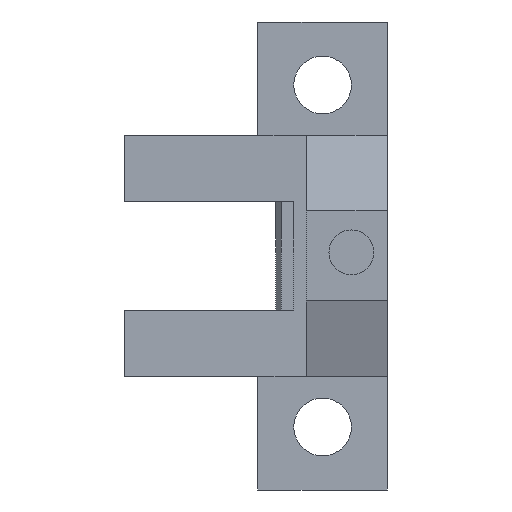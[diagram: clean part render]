
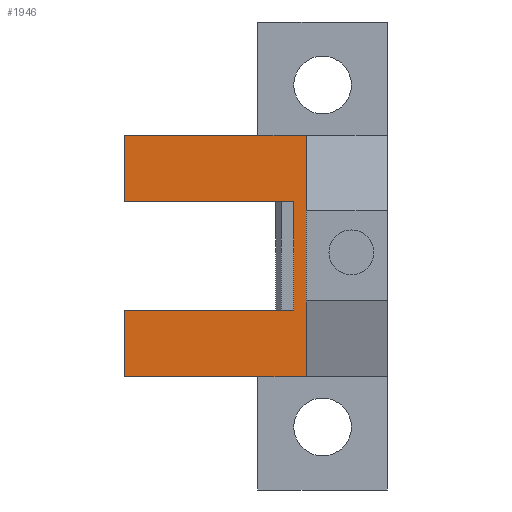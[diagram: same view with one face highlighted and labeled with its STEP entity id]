
A CAD part, left-side view. The second image highlights one B-rep face of the part: STEP entity #1946.
In plain terms, the highlighted planar face has unit normal (-1, 0, 0).
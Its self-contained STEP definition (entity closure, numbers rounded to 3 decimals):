
#4 = EDGE_CURVE ( 'NONE', #1357, #1883, #20, .T. ) ;
#20 = LINE ( 'NONE', #2576, #2518 ) ;
#34 = ORIENTED_EDGE ( 'NONE', *, *, #788, .F. ) ;
#61 = DIRECTION ( 'NONE',  ( 0., -1., 0. ) ) ;
#79 = ORIENTED_EDGE ( 'NONE', *, *, #4, .F. ) ;
#98 = CARTESIAN_POINT ( 'NONE',  ( -3., -7.4, 0. ) ) ;
#134 = CARTESIAN_POINT ( 'NONE',  ( -3., 2., 6. ) ) ;
#235 = AXIS2_PLACEMENT_3D ( 'NONE', #278, #2843, #2542 ) ;
#278 = CARTESIAN_POINT ( 'NONE',  ( -3., 2., -3.7 ) ) ;
#351 = CARTESIAN_POINT ( 'NONE',  ( -3., -12.6, 9.7 ) ) ;
#383 = LINE ( 'NONE', #98, #1021 ) ;
#386 = EDGE_CURVE ( 'NONE', #1766, #1917, #640, .T. ) ;
#472 = ORIENTED_EDGE ( 'NONE', *, *, #2100, .T. ) ;
#511 = CARTESIAN_POINT ( 'NONE',  ( -3., 2., -3.7 ) ) ;
#537 = VECTOR ( 'NONE', #848, 1000. ) ;
#571 = PLANE ( 'NONE',  #235 ) ;
#602 = ORIENTED_EDGE ( 'NONE', *, *, #908, .F. ) ;
#628 = EDGE_CURVE ( 'NONE', #1599, #2757, #383, .T. ) ;
#640 = LINE ( 'NONE', #351, #1936 ) ;
#741 = ORIENTED_EDGE ( 'NONE', *, *, #386, .F. ) ;
#745 = EDGE_CURVE ( 'NONE', #1859, #1357, #2309, .T. ) ;
#788 = EDGE_CURVE ( 'NONE', #1883, #1811, #1944, .T. ) ;
#848 = DIRECTION ( 'NONE',  ( 0., 1., 0. ) ) ;
#903 = VECTOR ( 'NONE', #968, 1000. ) ;
#908 = EDGE_CURVE ( 'NONE', #1917, #1970, #2409, .T. ) ;
#919 = ORIENTED_EDGE ( 'NONE', *, *, #1049, .F. ) ;
#963 = DIRECTION ( 'NONE',  ( 0., 0., 1. ) ) ;
#968 = DIRECTION ( 'NONE',  ( 0., 1., 0. ) ) ;
#976 = VECTOR ( 'NONE', #1368, 1000. ) ;
#994 = CARTESIAN_POINT ( 'NONE',  ( -3., -5.4, 9.7 ) ) ;
#1021 = VECTOR ( 'NONE', #2654, 1000. ) ;
#1049 = EDGE_CURVE ( 'NONE', #2757, #2388, #1555, .T. ) ;
#1138 = CARTESIAN_POINT ( 'NONE',  ( -3., 2., -3.7 ) ) ;
#1178 = VECTOR ( 'NONE', #1663, 1000. ) ;
#1220 = DIRECTION ( 'NONE',  ( 0., 0., 1. ) ) ;
#1254 = CARTESIAN_POINT ( 'NONE',  ( -3., -8.1, 9.7 ) ) ;
#1258 = CARTESIAN_POINT ( 'NONE',  ( -3., 2., 6. ) ) ;
#1357 = VERTEX_POINT ( 'NONE', #2313 ) ;
#1368 = DIRECTION ( 'NONE',  ( 0., 0., 1. ) ) ;
#1378 = EDGE_CURVE ( 'NONE', #1811, #1599, #2535, .T. ) ;
#1443 = CARTESIAN_POINT ( 'NONE',  ( -3., 2., 9.7 ) ) ;
#1466 = ORIENTED_EDGE ( 'NONE', *, *, #745, .F. ) ;
#1518 = CARTESIAN_POINT ( 'NONE',  ( -3., 2., 9.7 ) ) ;
#1549 = LINE ( 'NONE', #1254, #1924 ) ;
#1555 = LINE ( 'NONE', #1258, #903 ) ;
#1599 = VERTEX_POINT ( 'NONE', #2430 ) ;
#1658 = CARTESIAN_POINT ( 'NONE',  ( -3., 2., 0. ) ) ;
#1663 = DIRECTION ( 'NONE',  ( 0., -1., 0. ) ) ;
#1664 = CARTESIAN_POINT ( 'NONE',  ( -3., -7.4, 6. ) ) ;
#1699 = ORIENTED_EDGE ( 'NONE', *, *, #628, .F. ) ;
#1766 = VERTEX_POINT ( 'NONE', #1443 ) ;
#1809 = LINE ( 'NONE', #1518, #2567 ) ;
#1811 = VERTEX_POINT ( 'NONE', #1816 ) ;
#1816 = CARTESIAN_POINT ( 'NONE',  ( -3., 2., 0. ) ) ;
#1830 = DIRECTION ( 'NONE',  ( 0., -1., 0. ) ) ;
#1859 = VERTEX_POINT ( 'NONE', #2849 ) ;
#1883 = VERTEX_POINT ( 'NONE', #511 ) ;
#1909 = VECTOR ( 'NONE', #1830, 1000. ) ;
#1917 = VERTEX_POINT ( 'NONE', #994 ) ;
#1924 = VECTOR ( 'NONE', #963, 1000. ) ;
#1928 = EDGE_CURVE ( 'NONE', #2388, #1766, #1809, .T. ) ;
#1936 = VECTOR ( 'NONE', #61, 1000. ) ;
#1944 = LINE ( 'NONE', #1658, #976 ) ;
#1946 = ADVANCED_FACE ( 'NONE', ( #2727 ), #571, .T. ) ;
#1950 = CARTESIAN_POINT ( 'NONE',  ( -3., -1.1, 0. ) ) ;
#1970 = VERTEX_POINT ( 'NONE', #2183 ) ;
#2027 = ORIENTED_EDGE ( 'NONE', *, *, #1928, .F. ) ;
#2100 = EDGE_CURVE ( 'NONE', #1859, #1970, #1549, .T. ) ;
#2115 = CARTESIAN_POINT ( 'NONE',  ( -3., -12.6, 9.7 ) ) ;
#2183 = CARTESIAN_POINT ( 'NONE',  ( -3., -8.1, 9.7 ) ) ;
#2292 = DIRECTION ( 'NONE',  ( 0., 1., 0. ) ) ;
#2309 = LINE ( 'NONE', #1138, #537 ) ;
#2313 = CARTESIAN_POINT ( 'NONE',  ( -3., -5.4, -3.7 ) ) ;
#2388 = VERTEX_POINT ( 'NONE', #134 ) ;
#2409 = LINE ( 'NONE', #2115, #1909 ) ;
#2430 = CARTESIAN_POINT ( 'NONE',  ( -3., -7.4, 0. ) ) ;
#2518 = VECTOR ( 'NONE', #2292, 1000. ) ;
#2535 = LINE ( 'NONE', #1950, #1178 ) ;
#2542 = DIRECTION ( 'NONE',  ( 0., 0., 1. ) ) ;
#2567 = VECTOR ( 'NONE', #1220, 1000. ) ;
#2572 = EDGE_LOOP ( 'NONE', ( #1466, #472, #602, #741, #2027, #919, #1699, #2850, #34, #79 ) ) ;
#2576 = CARTESIAN_POINT ( 'NONE',  ( -3., 2., -3.7 ) ) ;
#2654 = DIRECTION ( 'NONE',  ( 0., 0., 1. ) ) ;
#2727 = FACE_OUTER_BOUND ( 'NONE', #2572, .T. ) ;
#2757 = VERTEX_POINT ( 'NONE', #1664 ) ;
#2843 = DIRECTION ( 'NONE',  ( -1., 0., 0. ) ) ;
#2849 = CARTESIAN_POINT ( 'NONE',  ( -3., -8.1, -3.7 ) ) ;
#2850 = ORIENTED_EDGE ( 'NONE', *, *, #1378, .F. ) ;
